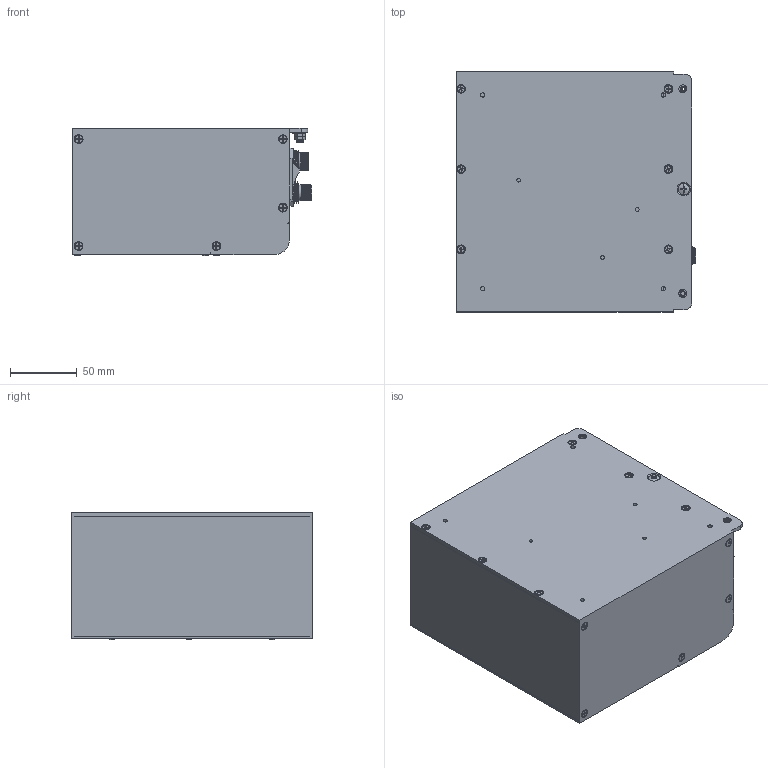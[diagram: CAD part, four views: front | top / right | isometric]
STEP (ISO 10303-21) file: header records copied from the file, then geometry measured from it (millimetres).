
FILE_DESCRIPTION(/* description */ ('© Copyright 2019 – Urheberrechtshinweis Diese CAD-Daten sind urheberrechtlich geschützt. Das Urheberrecht liegt, soweit nicht ausdrücklich anders gekennzeichnet, bei Stöger Automation GmbH. Bitte fragen Sie uns, falls Sie die CAD-Daten vervielfältigen oder','CAx-IF Rec.Pracs.---Representation and Presentation of Product Manufacturing Information (PMI)---4.0---2014-10-13'),/* implementation_level */ '2;1');
FILE_NAME(/* name */ 'H:\00_0 Arbeiten für Marketing\584050\584050 - FAS 3512.stp',/* time_stamp */ '2020-09-16T12:06:12+02:00',/* author */ ('Stöger Automation GmbH'),/* organization */ ('Stöger Automation GmbH'),/* preprocessor_version */ 'ST-DEVELOPER v17',/* originating_system */ 'Autodesk Inventor 2018',/* authorisation */ '');
FILE_SCHEMA (('AP242_MANAGED_MODEL_BASED_3D_ENGINEERING_MIM_LF { 1 0 10303 442 1 1 4 }'));
Products named in the file (1): 584050
Bounding box: 179.5 x 179.73 x 95.4 mm (x, y, z)
Volume: 348331 mm3; surface area: 323836.4 mm2
Topology: 1 solids, 1 shells, 2312 faces, 5980 edges, 4064 vertices
Faces by surface type: plane 1409, cylinder 719, bspline 73, torus 55, cone 48, sphere 8
Full cylindrical faces by diameter (mm): 0.6 x6, 0.8 x3, 1 x121, 2 x16, 2.339 x5, 2.459 x11, 2.48 x5, 2.8 x3, 3 x12, 3.242 x4, 3.3 x14, 3.4 x1, 3.469 x5, 3.5 x19, 3.585 x5, 4.2 x8, 5 x15, 5.2 x6, 5.72 x15, 6 x2, 6.47 x16, 7 x16, 7.8 x16, 8.2 x2, 9 x18, 9.2 x2, 10.7 x16, 11 x1, 11.015 x6, 11.2 x1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
Entity records: 92185 total; most frequent: CARTESIAN_POINT 32029, ORIENTED_EDGE 11938, DIRECTION 11868, EDGE_CURVE 5969, AXIS2_PLACEMENT_3D 4110, VERTEX_POINT 4064, LINE 3648, VECTOR 3648
